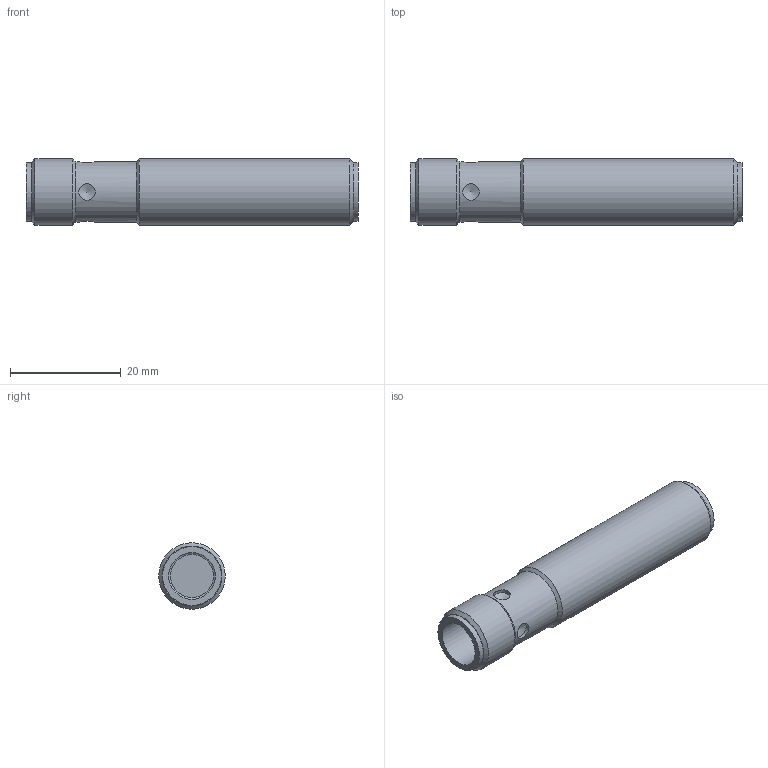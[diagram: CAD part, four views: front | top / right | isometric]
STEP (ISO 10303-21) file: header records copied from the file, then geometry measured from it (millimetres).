
FILE_DESCRIPTION(/* description */ ('STEP AP203'),/* implementation_level */ '2;1');
FILE_NAME(/* name */ 'P_MZ_100_0513',/* time_stamp */ '2023-03-02T10:13:10+01:00',/* author */ ('License CC BY-ND 4.0'),/* organization */ ('CADENAS'),/* preprocessor_version */ 'ST-DEVELOPER v18.102',/* originating_system */ 'PARTsolutions',/* authorisation */ ' ');
FILE_SCHEMA (('CONFIG_CONTROL_DESIGN'));
Length unit declared in the file: millimetre
Products named in the file (1): P_MZ_100_0513
Bounding box: 59.9 x 12 x 12 mm (x, y, z)
Volume: 5968.5 mm3; surface area: 2680.8 mm2
Topology: 1 solids, 1 shells, 24 faces, 53 edges, 33 vertices
Faces by surface type: cylinder 10, cone 8, plane 5, torus 1
Full cylindrical faces by diameter (mm): 3 x4, 8.4 x1, 10.55 x1, 10.6 x1, 10.9 x1, 12 x2
Entity records: 548 total; most frequent: CARTESIAN_POINT 115, DIRECTION 88, FACE_BOUND 50, ORIENTED_EDGE 46, EDGE_LOOP 46, AXIS2_PLACEMENT_3D 44, VERTEX_POINT 27, ADVANCED_FACE 24
